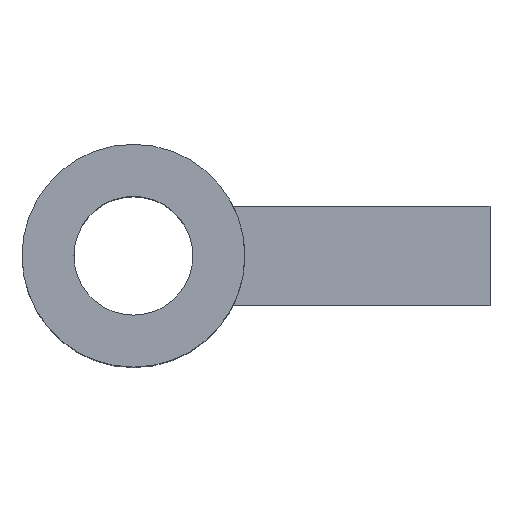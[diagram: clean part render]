
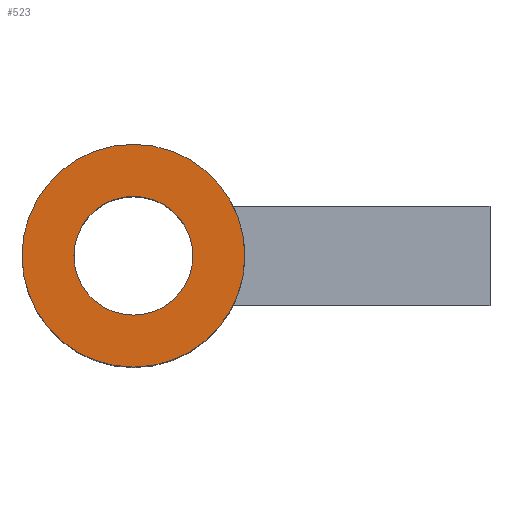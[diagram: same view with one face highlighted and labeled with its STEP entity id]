
A CAD part, top view. The second image highlights one B-rep face of the part: STEP entity #523.
In plain terms, the highlighted planar face has unit normal (0, 0, 1).
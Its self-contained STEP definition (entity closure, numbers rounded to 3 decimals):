
#24 = VERTEX_POINT('',#25);
#25 = CARTESIAN_POINT('',(-48.75,22.5,6.4));
#32 = CYLINDRICAL_SURFACE('',#33,2.25);
#33 = AXIS2_PLACEMENT_3D('',#34,#35,#36);
#34 = CARTESIAN_POINT('',(-51.,22.5,0.));
#35 = DIRECTION('',(0.,0.,1.));
#36 = DIRECTION('',(1.,0.,0.));
#51 = EDGE_CURVE('',#24,#24,#52,.T.);
#52 = SURFACE_CURVE('',#53,(#58,#65),.PCURVE_S1.);
#53 = CIRCLE('',#54,2.25);
#54 = AXIS2_PLACEMENT_3D('',#55,#56,#57);
#55 = CARTESIAN_POINT('',(-51.,22.5,6.4));
#56 = DIRECTION('',(0.,0.,1.));
#57 = DIRECTION('',(1.,0.,0.));
#58 = PCURVE('',#32,#59);
#59 = DEFINITIONAL_REPRESENTATION('',(#60),#64);
#60 = LINE('',#61,#62);
#61 = CARTESIAN_POINT('',(0.,6.4));
#62 = VECTOR('',#63,1.);
#63 = DIRECTION('',(1.,0.));
#64 = ( GEOMETRIC_REPRESENTATION_CONTEXT(2) 
PARAMETRIC_REPRESENTATION_CONTEXT() REPRESENTATION_CONTEXT('2D SPACE',''
  ) );
#65 = PCURVE('',#66,#71);
#66 = PLANE('',#67);
#67 = AXIS2_PLACEMENT_3D('',#68,#69,#70);
#68 = CARTESIAN_POINT('',(-51.,22.5,6.4));
#69 = DIRECTION('',(0.,0.,1.));
#70 = DIRECTION('',(1.,0.,0.));
#71 = DEFINITIONAL_REPRESENTATION('',(#72),#76);
#72 = CIRCLE('',#73,2.25);
#73 = AXIS2_PLACEMENT_2D('',#74,#75);
#74 = CARTESIAN_POINT('',(0.,0.));
#75 = DIRECTION('',(1.,0.));
#76 = ( GEOMETRIC_REPRESENTATION_CONTEXT(2) 
PARAMETRIC_REPRESENTATION_CONTEXT() REPRESENTATION_CONTEXT('2D SPACE',''
  ) );
#485 = CYLINDRICAL_SURFACE('',#486,1.2);
#486 = AXIS2_PLACEMENT_3D('',#487,#488,#489);
#487 = CARTESIAN_POINT('',(-51.,22.5,-0.1));
#488 = DIRECTION('',(0.,0.,1.));
#489 = DIRECTION('',(1.,0.,0.));
#523 = ADVANCED_FACE('',(#524,#527),#66,.T.);
#524 = FACE_BOUND('',#525,.T.);
#525 = EDGE_LOOP('',(#526));
#526 = ORIENTED_EDGE('',*,*,#51,.T.);
#527 = FACE_BOUND('',#528,.T.);
#528 = EDGE_LOOP('',(#529));
#529 = ORIENTED_EDGE('',*,*,#530,.F.);
#530 = EDGE_CURVE('',#531,#531,#533,.T.);
#531 = VERTEX_POINT('',#532);
#532 = CARTESIAN_POINT('',(-49.8,22.5,6.4));
#533 = SURFACE_CURVE('',#534,(#539,#546),.PCURVE_S1.);
#534 = CIRCLE('',#535,1.2);
#535 = AXIS2_PLACEMENT_3D('',#536,#537,#538);
#536 = CARTESIAN_POINT('',(-51.,22.5,6.4));
#537 = DIRECTION('',(0.,0.,1.));
#538 = DIRECTION('',(1.,0.,-0.));
#539 = PCURVE('',#66,#540);
#540 = DEFINITIONAL_REPRESENTATION('',(#541),#545);
#541 = CIRCLE('',#542,1.2);
#542 = AXIS2_PLACEMENT_2D('',#543,#544);
#543 = CARTESIAN_POINT('',(0.,0.));
#544 = DIRECTION('',(1.,0.));
#545 = ( GEOMETRIC_REPRESENTATION_CONTEXT(2) 
PARAMETRIC_REPRESENTATION_CONTEXT() REPRESENTATION_CONTEXT('2D SPACE',''
  ) );
#546 = PCURVE('',#485,#547);
#547 = DEFINITIONAL_REPRESENTATION('',(#548),#552);
#548 = LINE('',#549,#550);
#549 = CARTESIAN_POINT('',(0.,6.5));
#550 = VECTOR('',#551,1.);
#551 = DIRECTION('',(1.,0.));
#552 = ( GEOMETRIC_REPRESENTATION_CONTEXT(2) 
PARAMETRIC_REPRESENTATION_CONTEXT() REPRESENTATION_CONTEXT('2D SPACE',''
  ) );
